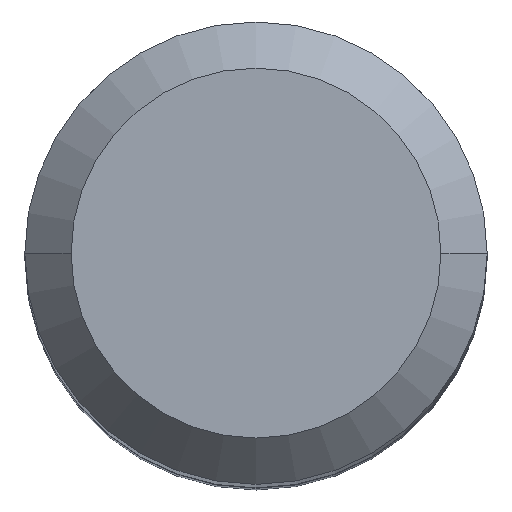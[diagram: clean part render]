
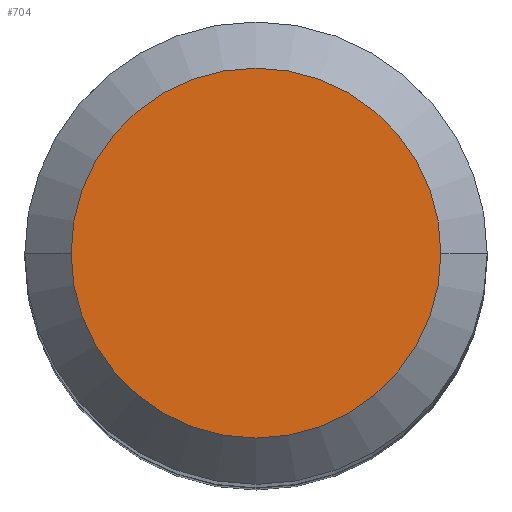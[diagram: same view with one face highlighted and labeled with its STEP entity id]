
A CAD part, top view. The second image highlights one B-rep face of the part: STEP entity #704.
In plain terms, the highlighted planar face has unit normal (0, 0, 1).
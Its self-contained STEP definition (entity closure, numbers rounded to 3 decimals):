
#17 = PLANE ( 'NONE',  #21 ) ;
#21 = AXIS2_PLACEMENT_3D ( 'NONE', #569, #133, #612 ) ;
#42 = EDGE_CURVE ( 'NONE', #192, #117, #76, .T. ) ;
#55 = AXIS2_PLACEMENT_3D ( 'NONE', #241, #660, #236 ) ;
#76 = CIRCLE ( 'NONE', #501, 4. ) ;
#117 = VERTEX_POINT ( 'NONE', #667 ) ;
#133 = DIRECTION ( 'NONE',  ( 0., 0., 1. ) ) ;
#192 = VERTEX_POINT ( 'NONE', #193 ) ;
#193 = CARTESIAN_POINT ( 'NONE',  ( -4., 0., 0. ) ) ;
#236 = DIRECTION ( 'NONE',  ( -1., 0., 0. ) ) ;
#241 = CARTESIAN_POINT ( 'NONE',  ( 0., 0., 0. ) ) ;
#282 = FACE_OUTER_BOUND ( 'NONE', #285, .T. ) ;
#285 = EDGE_LOOP ( 'NONE', ( #566, #362 ) ) ;
#362 = ORIENTED_EDGE ( 'NONE', *, *, #421, .F. ) ;
#385 = CIRCLE ( 'NONE', #55, 4. ) ;
#396 = DIRECTION ( 'NONE',  ( -1., 0., 0. ) ) ;
#399 = CARTESIAN_POINT ( 'NONE',  ( 0., 0., 0. ) ) ;
#421 = EDGE_CURVE ( 'NONE', #117, #192, #385, .T. ) ;
#501 = AXIS2_PLACEMENT_3D ( 'NONE', #399, #652, #396 ) ;
#566 = ORIENTED_EDGE ( 'NONE', *, *, #42, .F. ) ;
#569 = CARTESIAN_POINT ( 'NONE',  ( 0., 4., 0. ) ) ;
#612 = DIRECTION ( 'NONE',  ( 1., 0., 0. ) ) ;
#652 = DIRECTION ( 'NONE',  ( 0., 0., -1. ) ) ;
#660 = DIRECTION ( 'NONE',  ( 0., 0., -1. ) ) ;
#667 = CARTESIAN_POINT ( 'NONE',  ( 4., 0., 0. ) ) ;
#704 = ADVANCED_FACE ( 'NONE', ( #282 ), #17, .T. ) ;
